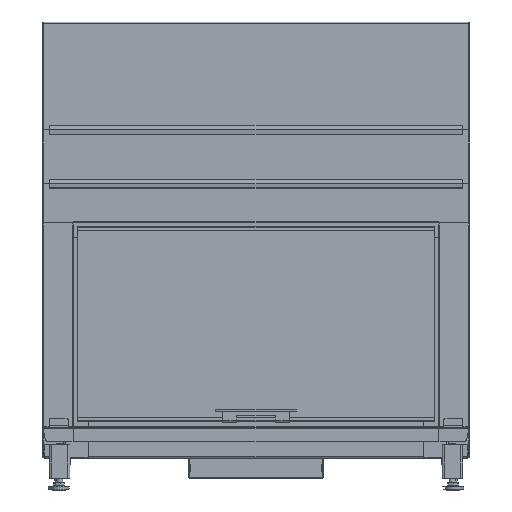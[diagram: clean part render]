
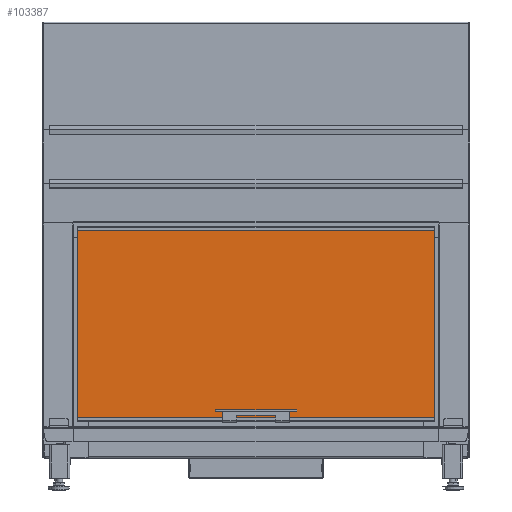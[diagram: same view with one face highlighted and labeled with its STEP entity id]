
A CAD part, front view. The second image highlights one B-rep face of the part: STEP entity #103387.
In plain terms, the highlighted planar face has unit normal (0, -1, 0) as drawn and (0, 1, 0) by its records, which use the part's own axes.
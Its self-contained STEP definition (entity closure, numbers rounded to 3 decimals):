
#8939=FACE_OUTER_BOUND('',#14594,.T.);
#14594=EDGE_LOOP('',(#89843,#89844,#89845,#89846));
#28130=LINE('',#176772,#37685);
#28131=LINE('',#176774,#37686);
#28132=LINE('',#176776,#37687);
#28133=LINE('',#176777,#37688);
#37685=VECTOR('',#140924,1.);
#37686=VECTOR('',#140925,1.);
#37687=VECTOR('',#140926,1.);
#37688=VECTOR('',#140927,1.);
#46680=VERTEX_POINT('',#176770);
#46681=VERTEX_POINT('',#176771);
#46682=VERTEX_POINT('',#176773);
#46683=VERTEX_POINT('',#176775);
#61077=EDGE_CURVE('',#46680,#46681,#28130,.T.);
#61078=EDGE_CURVE('',#46682,#46680,#28131,.T.);
#61079=EDGE_CURVE('',#46683,#46682,#28132,.T.);
#61080=EDGE_CURVE('',#46681,#46683,#28133,.T.);
#89843=ORIENTED_EDGE('',*,*,#61077,.F.);
#89844=ORIENTED_EDGE('',*,*,#61078,.F.);
#89845=ORIENTED_EDGE('',*,*,#61079,.F.);
#89846=ORIENTED_EDGE('',*,*,#61080,.F.);
#92836=PLANE('',#112927);
#103387=ADVANCED_FACE('',(#8939),#92836,.F.);
#112927=AXIS2_PLACEMENT_3D('',#176769,#140922,#140923);
#140922=DIRECTION('center_axis',(0.,-1.,0.));
#140923=DIRECTION('ref_axis',(0.,0.,
1.));
#140924=DIRECTION('',(0.,0.,-1.));
#140925=DIRECTION('',(-1.,0.,0.));
#140926=DIRECTION('',(0.,0.,1.));
#140927=DIRECTION('',(1.,0.,0.));
#176769=CARTESIAN_POINT('Origin',(0.,3.4,
36.05));
#176770=CARTESIAN_POINT('',(-47.85,3.4,61.95));
#176771=CARTESIAN_POINT('',(-47.85,3.4,10.15));
#176772=CARTESIAN_POINT('',(-47.85,3.4,10.15));
#176773=CARTESIAN_POINT('',(47.85,3.4,61.95));
#176774=CARTESIAN_POINT('',(-47.85,3.4,61.95));
#176775=CARTESIAN_POINT('',(47.85,3.4,10.15));
#176776=CARTESIAN_POINT('',(47.85,3.4,61.95));
#176777=CARTESIAN_POINT('',(47.85,3.4,10.15));
